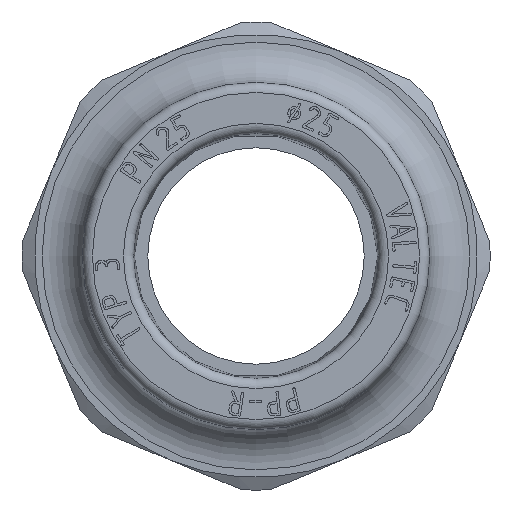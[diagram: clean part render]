
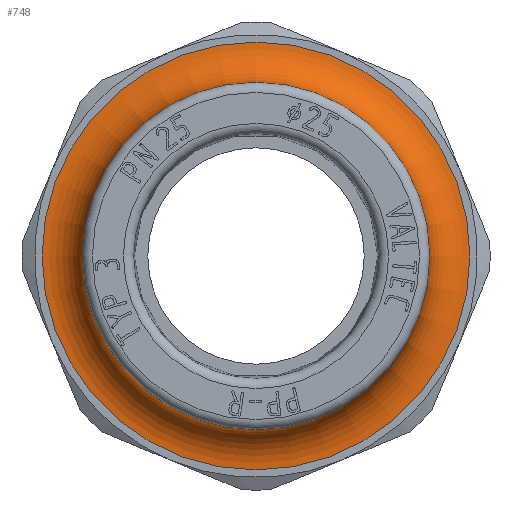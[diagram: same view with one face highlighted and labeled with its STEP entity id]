
A CAD part, front view. The second image highlights one B-rep face of the part: STEP entity #748.
In plain terms, the highlighted toroidal (fillet/blend) face has major radius 21.25 mm and minor radius 4 mm.
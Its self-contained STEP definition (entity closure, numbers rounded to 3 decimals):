
#748=ADVANCED_FACE('',(#4431,#4433),#4435,.F.);
#4431=FACE_OUTER_BOUND('',#4432,.T.);
#4432=EDGE_LOOP('',(#10925));
#4433=FACE_OUTER_BOUND('',#4434,.T.);
#4434=EDGE_LOOP('',(#10926));
#4435=TOROIDAL_SURFACE('',#4436,21.25,4.);
#4436=AXIS2_PLACEMENT_3D('',#4437,#4438,#4439);
#4437=CARTESIAN_POINT('',(0.,12.5,0.));
#4438=DIRECTION('',(0.,1.,0.));
#4439=DIRECTION('',(-1.,0.,0.));
#10925=ORIENTED_EDGE('',*,*,#14569,.T.);
#10926=ORIENTED_EDGE('',*,*,#14630,.F.);
#14569=EDGE_CURVE('',#17840,#17840,#17841,.T.);
#14630=EDGE_CURVE('',#17961,#17961,#17962,.T.);
#17840=VERTEX_POINT('',#24587);
#17841=CIRCLE('',#24588,17.25);
#17961=VERTEX_POINT('',#24832);
#17962=CIRCLE('',#24833,21.25);
#24587=CARTESIAN_POINT('',(-17.25,12.5,0.));
#24588=AXIS2_PLACEMENT_3D('',#24589,#24590,#24591);
#24589=CARTESIAN_POINT('',(0.,12.5,0.));
#24590=DIRECTION('',(0.,1.,0.));
#24591=DIRECTION('',(-1.,0.,0.));
#24832=CARTESIAN_POINT('',(-21.25,16.5,0.));
#24833=AXIS2_PLACEMENT_3D('',#24834,#24835,#24836);
#24834=CARTESIAN_POINT('',(0.,16.5,0.));
#24835=DIRECTION('',(0.,1.,0.));
#24836=DIRECTION('',(-1.,0.,0.));
